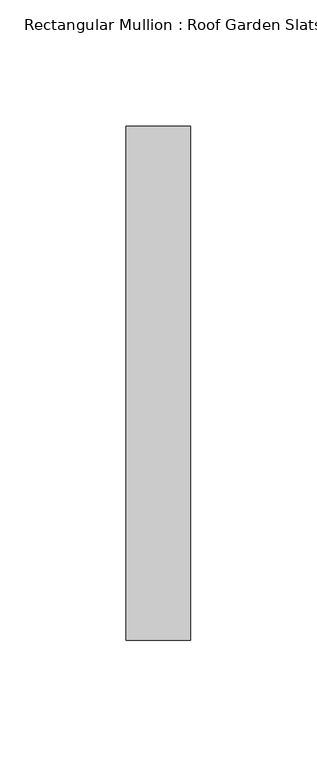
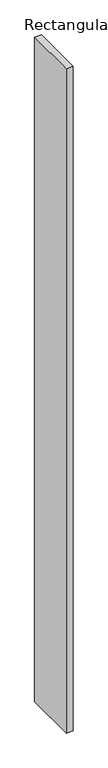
"""IFC4 building model written with IfcOpenShell, lengths in millimetres: member geometry, Rectangular Mullion : Roof Garden Slats."""

from ifc_helpers import new_model, si_unit, frame, origin, place, context, project, spatial, polyline, outline, extrude, source, transform, mapped, element, save


def rectangular_mullion_roof_garden_slats_33c09492(model_context):
    return source(origin(), model_context, "Body", "SweptSolid", [
        extrude(outline(polyline([(12.7, 139.7), (12.7, -63.5), (-12.7, -63.5), (-12.7, 139.7), (12.7, 139.7)])), frame((0.0, 0.0, -2604.9913958), z_axis=(0.0, 0.0, 1.0), x_axis=(1.0, 0.0, 0.0)), (0.0, 0.0, 1.0), 2604.9913958),
    ])


if __name__ == "__main__":
    model = new_model("IFC4")
    model_context = context("Model", 3, world=origin())
    ifc_project = project(units=[si_unit("LENGTHUNIT", "METRE", prefix="MILLI")], contexts=[model_context])
    site = spatial("IfcSite", under=ifc_project)
    building = spatial("IfcBuilding", under=site)
    placement = place(None, origin())
    rectangular_mullion_roof_garden_slats_shape = rectangular_mullion_roof_garden_slats_33c09492(model_context)
    element("IfcMember", 1, ObjectType="Rectangular Mullion : Roof Garden Slats", at=placement, inside=building, context=model_context, shape_type="MappedRepresentation", body=[
        mapped(rectangular_mullion_roof_garden_slats_shape, transform((0.0, 0.0, 0.0), x_axis=(1.0, 0.0, 0.0), y_axis=(0.0, 1.0, 0.0), z_axis=(0.0, 0.0, 1.0))),
    ])
    save(model, "model.ifc")
